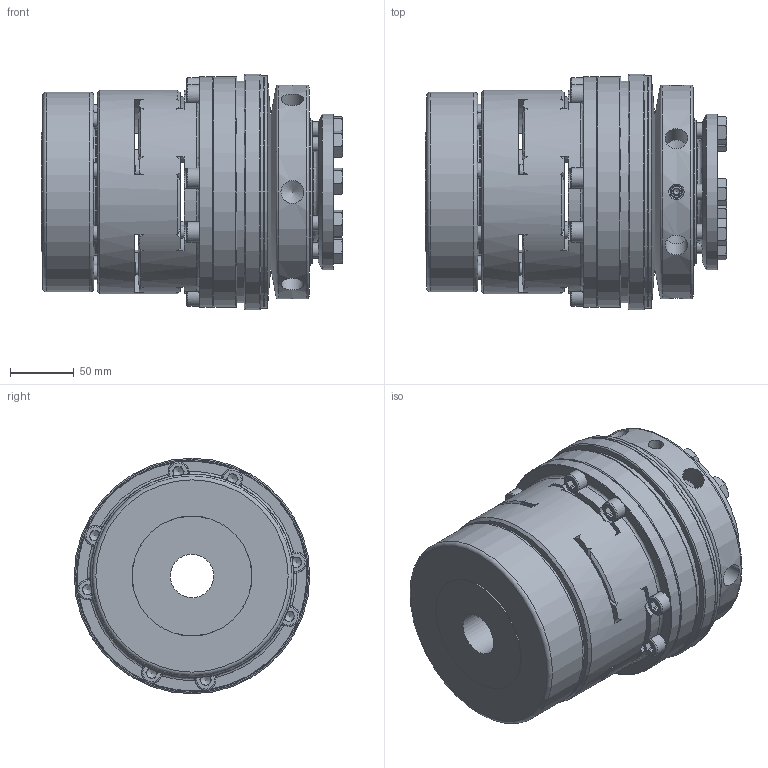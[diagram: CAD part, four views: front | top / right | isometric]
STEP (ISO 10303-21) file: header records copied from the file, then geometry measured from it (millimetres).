
FILE_DESCRIPTION( ( 'Unknown' ), '1' );
FILE_NAME( 'F:/JAKOB-STEP+IGES-Dateien/STEP-Dateien/SKY-ES/SKY-ES 2000.stp', 'Unknown', ( 'Unknown' ), ( 'Unknown' ), 'PSStep 10.1', 'Unknown', ' ' );
FILE_SCHEMA( ( 'AUTOMOTIVE_DESIGN { 1 0 10303 214 1 1 1 1 }' ) );
Length unit declared in the file: millimetre
Products named in the file (1): kt101929
Bounding box: 236.5 x 185 x 185 mm (x, y, z)
Volume: 3670147 mm3; surface area: 548255.9 mm2
Topology: 1 solids, 30 shells, 1064 faces, 2835 edges, 1818 vertices
Faces by surface type: plane 480, cylinder 237, cone 181, torus 112, sphere 34, extrusion 20
Full cylindrical faces by diameter (mm): 6.8 x2, 8.5 x6, 10 x18, 10.106 x12, 10.2 x9, 10.4 x8, 12 x16, 12.5 x14, 16 x8, 17.2 x6, 18 x14, 19 x8, 34 x1, 38 x1, 60 x1, 74 x1, 77 x2, 79.35 x1, 95 x1, 99.31 x1, 100 x1, 107.7 x1, 109.8 x1, 110 x2, 115 x2, 116 x1, 117 x1, 120 x2, 122 x1, 128 x1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
Entity records: 43645 total; most frequent: CARTESIAN_POINT 11432, DIRECTION 4839, ORIENTED_EDGE 4522, EDGE_CURVE 2261, AXIS2_PLACEMENT_3D 2007, VERTEX_POINT 1602, EDGE_LOOP 1539, FACE_OUTER_BOUND 1244
